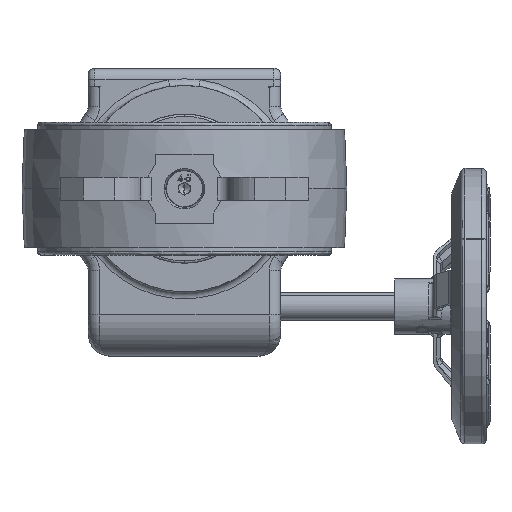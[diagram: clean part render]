
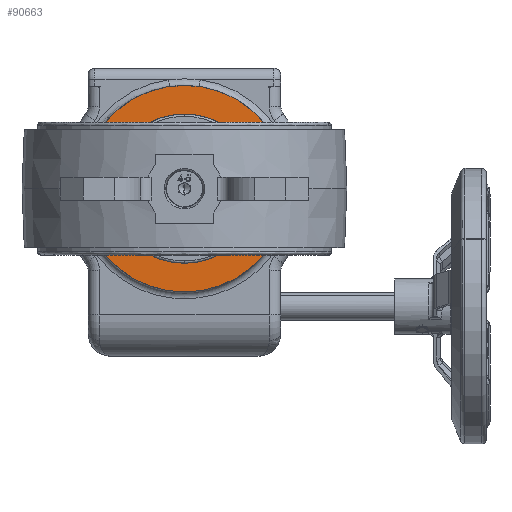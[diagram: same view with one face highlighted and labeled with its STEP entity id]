
A CAD part, front view. The second image highlights one B-rep face of the part: STEP entity #90663.
In plain terms, the highlighted planar face has unit normal (0, -1, 0).
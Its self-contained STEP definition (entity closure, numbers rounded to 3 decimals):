
#1208 = AXIS2_PLACEMENT_3D ( 'NONE', #107191, #80263, #97329 ) ;
#2275 = DIRECTION ( 'NONE',  ( 0., -1., 0. ) ) ;
#3089 = FACE_BOUND ( 'NONE', #87195, .T. ) ;
#4542 = DIRECTION ( 'NONE',  ( 0., 0., -1. ) ) ;
#4999 = CARTESIAN_POINT ( 'NONE',  ( 17.678, 169., -17.678 ) ) ;
#5129 = CIRCLE ( 'NONE', #59880, 3.4 ) ;
#7945 = CIRCLE ( 'NONE', #32286, 17.5 ) ;
#8709 = CARTESIAN_POINT ( 'NONE',  ( 0., 169., 17.5 ) ) ;
#9537 = ORIENTED_EDGE ( 'NONE', *, *, #82872, .F. ) ;
#9584 = ORIENTED_EDGE ( 'NONE', *, *, #40377, .T. ) ;
#10644 = AXIS2_PLACEMENT_3D ( 'NONE', #63433, #99046, #80462 ) ;
#11676 = AXIS2_PLACEMENT_3D ( 'NONE', #4999, #40335, #22881 ) ;
#11882 = VERTEX_POINT ( 'NONE', #76796 ) ;
#12449 = CARTESIAN_POINT ( 'NONE',  ( 0., 169., -45. ) ) ;
#12994 = AXIS2_PLACEMENT_3D ( 'NONE', #81725, #99175, #107166 ) ;
#14243 = DIRECTION ( 'NONE',  ( 0., 0., -1. ) ) ;
#17486 = DIRECTION ( 'NONE',  ( 0., -1., 0. ) ) ;
#18388 = VERTEX_POINT ( 'NONE', #12449 ) ;
#20008 = VERTEX_POINT ( 'NONE', #87053 ) ;
#21440 = CIRCLE ( 'NONE', #10644, 45. ) ;
#22629 = CARTESIAN_POINT ( 'NONE',  ( -17.678, 169., 17.678 ) ) ;
#22881 = DIRECTION ( 'NONE',  ( 0., 0., -1. ) ) ;
#24291 = DIRECTION ( 'NONE',  ( 0., -1., 0. ) ) ;
#25926 = CIRCLE ( 'NONE', #103370, 3.4 ) ;
#26286 = DIRECTION ( 'NONE',  ( 0., -1., 0. ) ) ;
#26682 = CARTESIAN_POINT ( 'NONE',  ( 17.678, 169., 17.678 ) ) ;
#26791 = CARTESIAN_POINT ( 'NONE',  ( -17.678, 169., -21.078 ) ) ;
#27128 = ORIENTED_EDGE ( 'NONE', *, *, #83920, .F. ) ;
#27778 = DIRECTION ( 'NONE',  ( 0., 0., -1. ) ) ;
#29863 = EDGE_LOOP ( 'NONE', ( #88692, #108794 ) ) ;
#29991 = CIRCLE ( 'NONE', #78469, 17.5 ) ;
#32286 = AXIS2_PLACEMENT_3D ( 'NONE', #76269, #24291, #42475 ) ;
#32688 = EDGE_LOOP ( 'NONE', ( #95736, #44893 ) ) ;
#33035 = FACE_BOUND ( 'NONE', #32688, .T. ) ;
#34561 = CARTESIAN_POINT ( 'NONE',  ( 0., 169., 45. ) ) ;
#34958 = CARTESIAN_POINT ( 'NONE',  ( -17.678, 169., 21.078 ) ) ;
#36457 = DIRECTION ( 'NONE',  ( 0., 0., -1. ) ) ;
#37894 = AXIS2_PLACEMENT_3D ( 'NONE', #26682, #26286, #27778 ) ;
#38067 = CARTESIAN_POINT ( 'NONE',  ( 0., 169., -17.5 ) ) ;
#38943 = CIRCLE ( 'NONE', #37894, 3.4 ) ;
#39463 = DIRECTION ( 'NONE',  ( 0., -1., 0. ) ) ;
#40335 = DIRECTION ( 'NONE',  ( 0., -1., 0. ) ) ;
#40377 = EDGE_CURVE ( 'NONE', #93854, #18388, #21440, .T. ) ;
#41471 = AXIS2_PLACEMENT_3D ( 'NONE', #85423, #50540, #103982 ) ;
#41760 = CIRCLE ( 'NONE', #45181, 45. ) ;
#42192 = EDGE_LOOP ( 'NONE', ( #9584, #90172 ) ) ;
#42475 = DIRECTION ( 'NONE',  ( 0., 0., -1. ) ) ;
#43386 = VERTEX_POINT ( 'NONE', #8709 ) ;
#43388 = EDGE_CURVE ( 'NONE', #90208, #101079, #111134, .T. ) ;
#43769 = ORIENTED_EDGE ( 'NONE', *, *, #80217, .F. ) ;
#44893 = ORIENTED_EDGE ( 'NONE', *, *, #92831, .F. ) ;
#45181 = AXIS2_PLACEMENT_3D ( 'NONE', #109694, #56961, #4542 ) ;
#45214 = DIRECTION ( 'NONE',  ( 0., 0., -1. ) ) ;
#45707 = CARTESIAN_POINT ( 'NONE',  ( 17.678, 169., -17.678 ) ) ;
#46101 = PLANE ( 'NONE',  #12994 ) ;
#50139 = CARTESIAN_POINT ( 'NONE',  ( -17.678, 169., -14.278 ) ) ;
#50540 = DIRECTION ( 'NONE',  ( 0., -1., 0. ) ) ;
#54053 = DIRECTION ( 'NONE',  ( 0., -1., 0. ) ) ;
#54770 = FACE_BOUND ( 'NONE', #80599, .T. ) ;
#56961 = DIRECTION ( 'NONE',  ( 0., -1., 0. ) ) ;
#59584 = CARTESIAN_POINT ( 'NONE',  ( 0., 169., 0. ) ) ;
#59880 = AXIS2_PLACEMENT_3D ( 'NONE', #97192, #2275, #45214 ) ;
#61828 = AXIS2_PLACEMENT_3D ( 'NONE', #69920, #17486, #36457 ) ;
#62719 = CARTESIAN_POINT ( 'NONE',  ( 17.678, 169., 21.078 ) ) ;
#63433 = CARTESIAN_POINT ( 'NONE',  ( 0., 169., 0. ) ) ;
#63667 = CARTESIAN_POINT ( 'NONE',  ( 17.678, 169., -21.078 ) ) ;
#65218 = ORIENTED_EDGE ( 'NONE', *, *, #43388, .F. ) ;
#68315 = FACE_BOUND ( 'NONE', #29863, .T. ) ;
#69920 = CARTESIAN_POINT ( 'NONE',  ( -17.678, 169., -17.678 ) ) ;
#73765 = VERTEX_POINT ( 'NONE', #62719 ) ;
#74889 = ORIENTED_EDGE ( 'NONE', *, *, #104651, .F. ) ;
#75115 = VERTEX_POINT ( 'NONE', #26791 ) ;
#75136 = EDGE_CURVE ( 'NONE', #20008, #73765, #107757, .T. ) ;
#76269 = CARTESIAN_POINT ( 'NONE',  ( 0., 169., 0. ) ) ;
#76796 = CARTESIAN_POINT ( 'NONE',  ( 17.678, 169., -14.278 ) ) ;
#77867 = FACE_BOUND ( 'NONE', #86609, .T. ) ;
#78469 = AXIS2_PLACEMENT_3D ( 'NONE', #59584, #39463, #108874 ) ;
#80217 = EDGE_CURVE ( 'NONE', #11882, #82578, #100357, .T. ) ;
#80263 = DIRECTION ( 'NONE',  ( 0., -1., 0. ) ) ;
#80462 = DIRECTION ( 'NONE',  ( 0., 0., -1. ) ) ;
#80565 = DIRECTION ( 'NONE',  ( 0., 0., -1. ) ) ;
#80599 = EDGE_LOOP ( 'NONE', ( #100348, #74889 ) ) ;
#81725 = CARTESIAN_POINT ( 'NONE',  ( 0., 169., 0. ) ) ;
#82578 = VERTEX_POINT ( 'NONE', #63667 ) ;
#82872 = EDGE_CURVE ( 'NONE', #82578, #11882, #25926, .T. ) ;
#83920 = EDGE_CURVE ( 'NONE', #101079, #90208, #111291, .T. ) ;
#84410 = EDGE_CURVE ( 'NONE', #43386, #107181, #7945, .T. ) ;
#85046 = CARTESIAN_POINT ( 'NONE',  ( -17.678, 169., 14.278 ) ) ;
#85423 = CARTESIAN_POINT ( 'NONE',  ( -17.678, 169., 17.678 ) ) ;
#86609 = EDGE_LOOP ( 'NONE', ( #9537, #43769 ) ) ;
#87053 = CARTESIAN_POINT ( 'NONE',  ( 17.678, 169., 14.278 ) ) ;
#87195 = EDGE_LOOP ( 'NONE', ( #27128, #65218 ) ) ;
#88692 = ORIENTED_EDGE ( 'NONE', *, *, #105687, .F. ) ;
#90172 = ORIENTED_EDGE ( 'NONE', *, *, #108877, .T. ) ;
#90208 = VERTEX_POINT ( 'NONE', #34958 ) ;
#90663 = ADVANCED_FACE ( 'NONE', ( #68315, #77867, #33035, #3089, #54770, #99514 ), #46101, .T. ) ;
#92003 = DIRECTION ( 'NONE',  ( 0., -1., 0. ) ) ;
#92831 = EDGE_CURVE ( 'NONE', #73765, #20008, #38943, .T. ) ;
#93854 = VERTEX_POINT ( 'NONE', #34561 ) ;
#95736 = ORIENTED_EDGE ( 'NONE', *, *, #75136, .F. ) ;
#97192 = CARTESIAN_POINT ( 'NONE',  ( -17.678, 169., -17.678 ) ) ;
#97329 = DIRECTION ( 'NONE',  ( 0., 0., -1. ) ) ;
#99046 = DIRECTION ( 'NONE',  ( 0., -1., 0. ) ) ;
#99175 = DIRECTION ( 'NONE',  ( 0., -1., 0. ) ) ;
#99514 = FACE_OUTER_BOUND ( 'NONE', #42192, .T. ) ;
#100348 = ORIENTED_EDGE ( 'NONE', *, *, #84410, .F. ) ;
#100357 = CIRCLE ( 'NONE', #11676, 3.4 ) ;
#101079 = VERTEX_POINT ( 'NONE', #85046 ) ;
#103370 = AXIS2_PLACEMENT_3D ( 'NONE', #45707, #54053, #80565 ) ;
#103982 = DIRECTION ( 'NONE',  ( 0., 0., -1. ) ) ;
#104651 = EDGE_CURVE ( 'NONE', #107181, #43386, #29991, .T. ) ;
#105687 = EDGE_CURVE ( 'NONE', #75115, #110480, #105823, .T. ) ;
#105823 = CIRCLE ( 'NONE', #61828, 3.4 ) ;
#107166 = DIRECTION ( 'NONE',  ( 0., 0., -1. ) ) ;
#107181 = VERTEX_POINT ( 'NONE', #38067 ) ;
#107191 = CARTESIAN_POINT ( 'NONE',  ( 17.678, 169., 17.678 ) ) ;
#107757 = CIRCLE ( 'NONE', #1208, 3.4 ) ;
#108682 = EDGE_CURVE ( 'NONE', #110480, #75115, #5129, .T. ) ;
#108794 = ORIENTED_EDGE ( 'NONE', *, *, #108682, .F. ) ;
#108874 = DIRECTION ( 'NONE',  ( 0., 0., -1. ) ) ;
#108877 = EDGE_CURVE ( 'NONE', #18388, #93854, #41760, .T. ) ;
#109694 = CARTESIAN_POINT ( 'NONE',  ( 0., 169., 0. ) ) ;
#110056 = AXIS2_PLACEMENT_3D ( 'NONE', #22629, #92003, #14243 ) ;
#110480 = VERTEX_POINT ( 'NONE', #50139 ) ;
#111134 = CIRCLE ( 'NONE', #41471, 3.4 ) ;
#111291 = CIRCLE ( 'NONE', #110056, 3.4 ) ;
